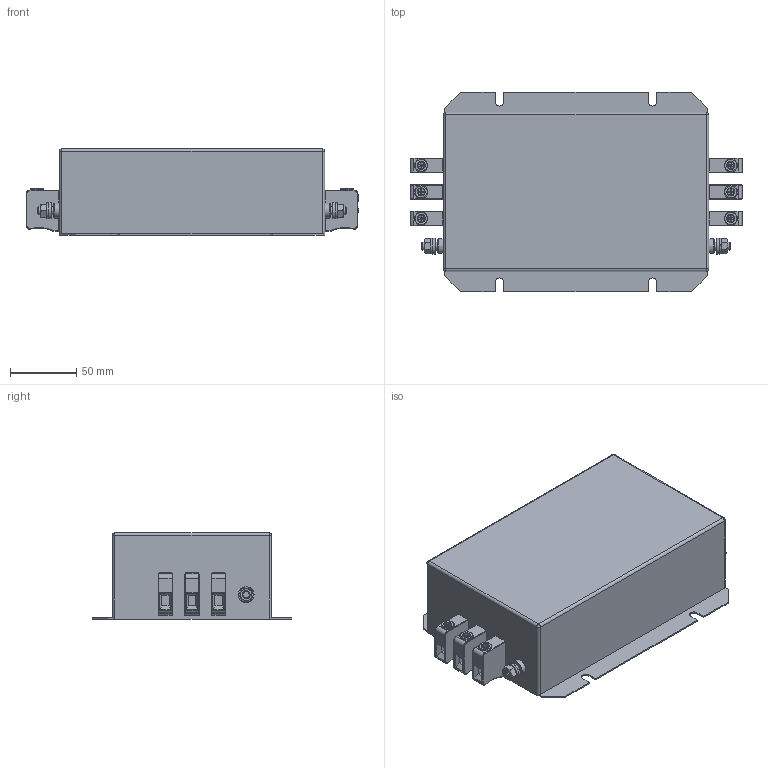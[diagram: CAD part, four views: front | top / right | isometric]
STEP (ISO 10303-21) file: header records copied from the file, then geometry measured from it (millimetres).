
FILE_DESCRIPTION((''),'2;1');
FILE_NAME('P:\Construction\Filter_Marketing\FN\FN351\FN351-64-33\FN351-64-33.stp','2013-11-26T14:29:47',('erika.jenzer'),(''),'Autodesk Inventor 2013','Autodesk Inventor 2013','');
FILE_SCHEMA(('AUTOMOTIVE_DESIGN { 1 0 10303 214 1 1 1 1 }'));
Length unit declared in the file: millimetre
Products named in the file (1): FN351-64-33
Bounding box: 250 x 150 x 65 mm (x, y, z)
Volume: 1601165.9 mm3; surface area: 121261.6 mm2
Topology: 1 solids, 4 shells, 575 faces, 1373 edges, 810 vertices
Faces by surface type: plane 282, cylinder 181, torus 72, sphere 28, cone 12
Full cylindrical faces by diameter (mm): 5.1 x6, 5.459 x2, 6 x6, 6.4 x2, 8.7 x2, 8.8 x3, 10 x6, 11.05 x2, 12 x2
Entity records: 16575 total; most frequent: DIRECTION 2894, CARTESIAN_POINT 2870, ORIENTED_EDGE 2548, EDGE_CURVE 1274, AXIS2_PLACEMENT_3D 1080, VERTEX_POINT 792, VECTOR 734, LINE 734
